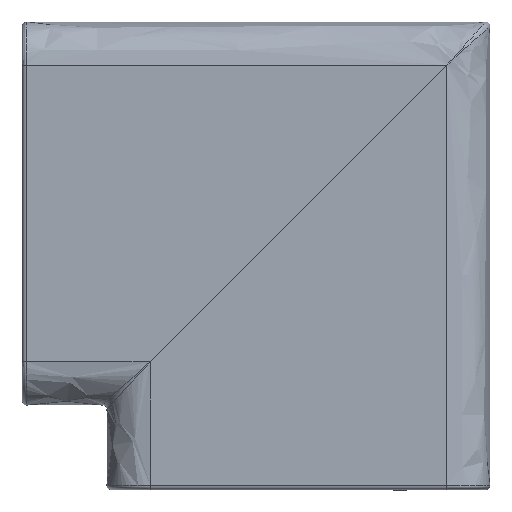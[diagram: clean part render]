
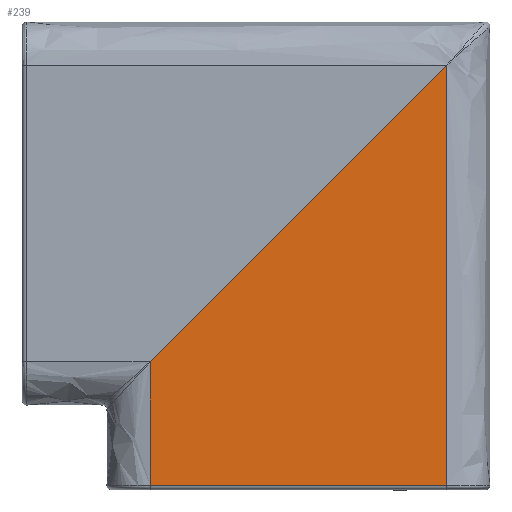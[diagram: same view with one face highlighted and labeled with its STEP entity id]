
A CAD part, top view. The second image highlights one B-rep face of the part: STEP entity #239.
In plain terms, the highlighted planar face has unit normal (0, 0, 1).
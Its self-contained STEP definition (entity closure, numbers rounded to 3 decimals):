
#239=ADVANCED_FACE('',(#340),#1618,.T.);
#340=FACE_OUTER_BOUND('',#441,.T.);
#441=EDGE_LOOP('',(#795,#796,#797,#798));
#795=ORIENTED_EDGE('',*,*,#1132,.T.);
#796=ORIENTED_EDGE('',*,*,#1130,.F.);
#797=ORIENTED_EDGE('',*,*,#1124,.F.);
#798=ORIENTED_EDGE('',*,*,#1122,.T.);
#1122=EDGE_CURVE('',#1554,#1558,#1707,.T.);
#1124=EDGE_CURVE('',#1554,#1552,#1367,.T.);
#1130=EDGE_CURVE('',#1552,#1559,#1710,.T.);
#1132=EDGE_CURVE('',#1558,#1559,#1711,.T.);
#1367=(
BOUNDED_CURVE()
B_SPLINE_CURVE(1,(#3285,#3286),.UNSPECIFIED.,.F.,.F.)
B_SPLINE_CURVE_WITH_KNOTS((2,2),(0.,685.341),
 .UNSPECIFIED.)
CURVE()
GEOMETRIC_REPRESENTATION_ITEM()
RATIONAL_B_SPLINE_CURVE((1.,1.))
REPRESENTATION_ITEM('')
);
#1552=VERTEX_POINT('',#3134);
#1554=VERTEX_POINT('',#3136);
#1558=VERTEX_POINT('',#3140);
#1559=VERTEX_POINT('',#3141);
#1618=PLANE('',#1771);
#1707=B_SPLINE_CURVE_WITH_KNOTS('',1,(#3280,#3281),.UNSPECIFIED.,.F.,.F.,
(2,2),(10.,546.839),.UNSPECIFIED.);
#1710=B_SPLINE_CURVE_WITH_KNOTS('',1,(#3315,#3316),.UNSPECIFIED.,.F.,.F.,
(2,2),(-730.,-572.175),.UNSPECIFIED.);
#1711=B_SPLINE_CURVE_WITH_KNOTS('',1,(#3322,#3323),.UNSPECIFIED.,.F.,.F.,
(2,2),(-1254.434,-285.214),.UNSPECIFIED.);
#1771=AXIS2_PLACEMENT_3D('',#2796,#1797,$);
#1797=DIRECTION('',(0.,0.,1.));
#2796=CARTESIAN_POINT('',(980.723,-628.052,424.));
#3134=CARTESIAN_POINT('',(295.381,-628.052,424.));
#3136=CARTESIAN_POINT('',(980.723,-628.052,424.));
#3140=CARTESIAN_POINT('',(980.723,342.671,424.));
#3141=CARTESIAN_POINT('',(295.381,-342.671,424.));
#3280=CARTESIAN_POINT('',(980.723,-628.052,424.));
#3281=CARTESIAN_POINT('',(980.723,342.671,424.));
#3285=CARTESIAN_POINT('',(980.723,-628.052,424.));
#3286=CARTESIAN_POINT('',(295.381,-628.052,424.));
#3315=CARTESIAN_POINT('',(295.381,-628.052,424.));
#3316=CARTESIAN_POINT('',(295.381,-342.671,424.));
#3322=CARTESIAN_POINT('',(980.723,342.671,424.));
#3323=CARTESIAN_POINT('',(295.381,-342.671,424.));
